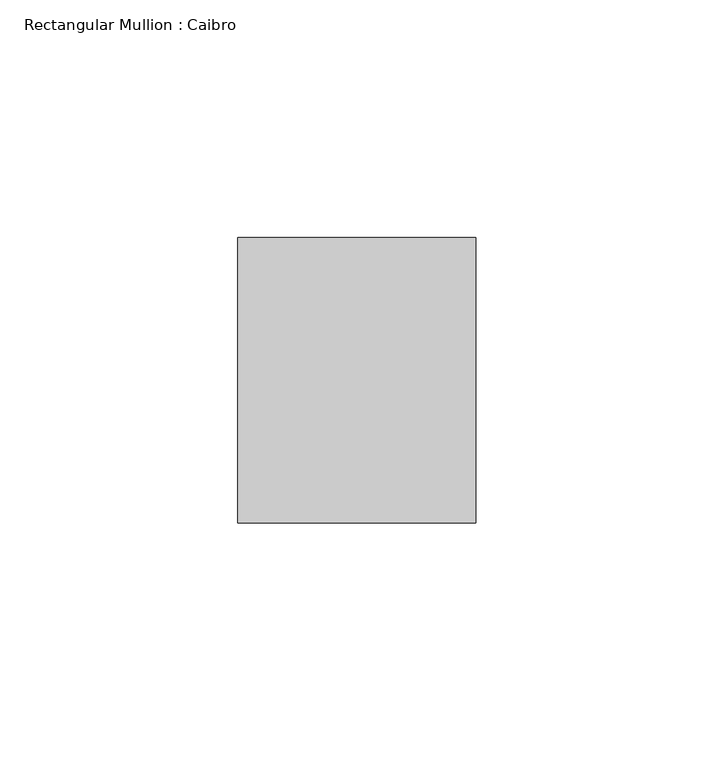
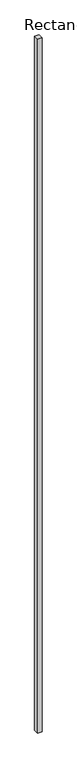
"""IFC4 building model written with IfcOpenShell, lengths in millimetres: member geometry, Rectangular Mullion : Caibro."""

from ifc_helpers import new_model, si_unit, frame, origin, place, context, project, spatial, polyline, outline, extrude, source, transform, mapped, element, save


def rectangular_mullion_caibro_0a25a9c4(model_context):
    return source(origin(), model_context, "Body", "SweptSolid", [
        extrude(outline(polyline([(-25.0, -60.0), (-25.0, 0.0), (25.0, 0.0), (25.0, -60.0), (-25.0, -60.0)])), frame((0.0, 0.0, -8322.2452071), z_axis=(0.0, 0.0, 1.0), x_axis=(1.0, 0.0, 0.0)), (0.0, 0.0, 1.0), 8322.2452071),
    ])


if __name__ == "__main__":
    model = new_model("IFC4")
    model_context = context("Model", 3, world=origin())
    ifc_project = project(units=[si_unit("LENGTHUNIT", "METRE", prefix="MILLI")], contexts=[model_context])
    site = spatial("IfcSite", under=ifc_project)
    building = spatial("IfcBuilding", under=site)
    placement = place(None, origin())
    rectangular_mullion_caibro_shape = rectangular_mullion_caibro_0a25a9c4(model_context)
    element("IfcMember", 1, ObjectType="Rectangular Mullion : Caibro", at=placement, inside=building, context=model_context, shape_type="MappedRepresentation", body=[
        mapped(rectangular_mullion_caibro_shape, transform((0.0, 0.0, 0.0), x_axis=(1.0, 0.0, 0.0), y_axis=(0.0, 1.0, 0.0), z_axis=(0.0, 0.0, 1.0))),
    ])
    save(model, "model.ifc")
